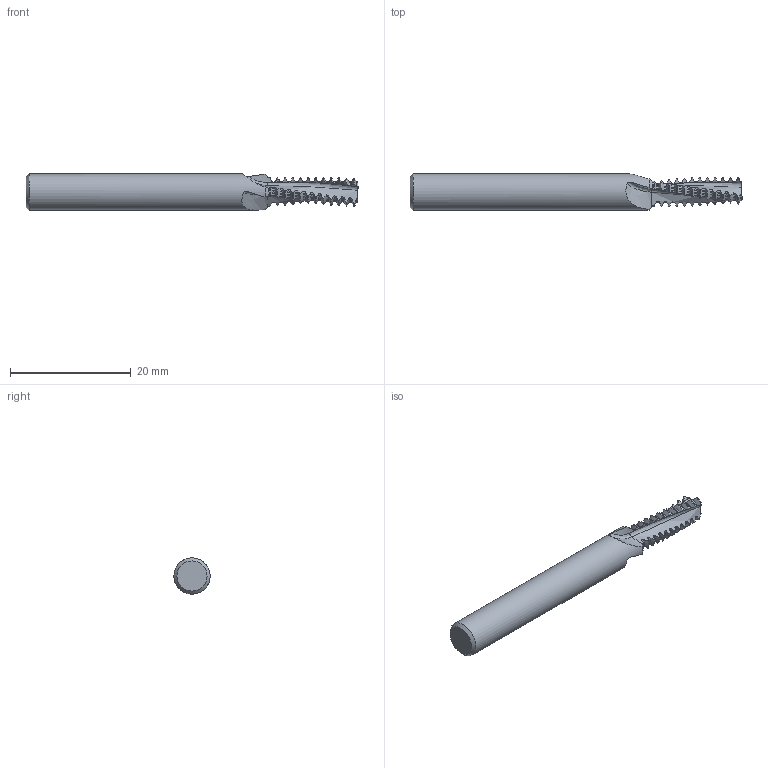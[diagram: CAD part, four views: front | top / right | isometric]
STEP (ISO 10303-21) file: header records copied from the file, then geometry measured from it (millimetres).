
FILE_DESCRIPTION(/* description */ (''),/* implementation_level */ '2;1');
FILE_NAME(/* name */ '00032311-STEP',/* time_stamp */ '2024-02-20T14:06:59+01:00',/* author */ (''),/* organization */ (''),/* preprocessor_version */ 'ST-DEVELOPER v16.5',/* originating_system */ 'HiCAD 2017 2201.0 Build 268',/* authorisation */ '');
FILE_SCHEMA (('AUTOMOTIVE_DESIGN { 1 0 10303 214 1 1 1 1 }'));
Length unit declared in the file: millimetre
Products named in the file (2): Root; ROTATIONSTEIL_1
Assembly tree (1 placements, depth 2):
  Root
    ROTATIONSTEIL_1
Bounding box: 55 x 6 x 6 mm (x, y, z)
Volume: 1192.8 mm3; surface area: 1020.1 mm2
Topology: 1 solids, 1 shells, 244 faces, 795 edges, 553 vertices
Faces by surface type: torus 105, cone 73, cylinder 40, bspline 24, plane 2
Full cylindrical faces by diameter (mm): 6 x1
Entity records: 27447 total; most frequent: CARTESIAN_POINT 14085, PRESENTATION_STYLE_ASSIGNMENT 1581, COLOUR_RGB 1581, DRAUGHTING_PRE_DEFINED_CURVE_FONT 1580, CURVE_STYLE 1580, OVER_RIDING_STYLED_ITEM 1580, ORIENTED_EDGE 1580, DIRECTION 886
